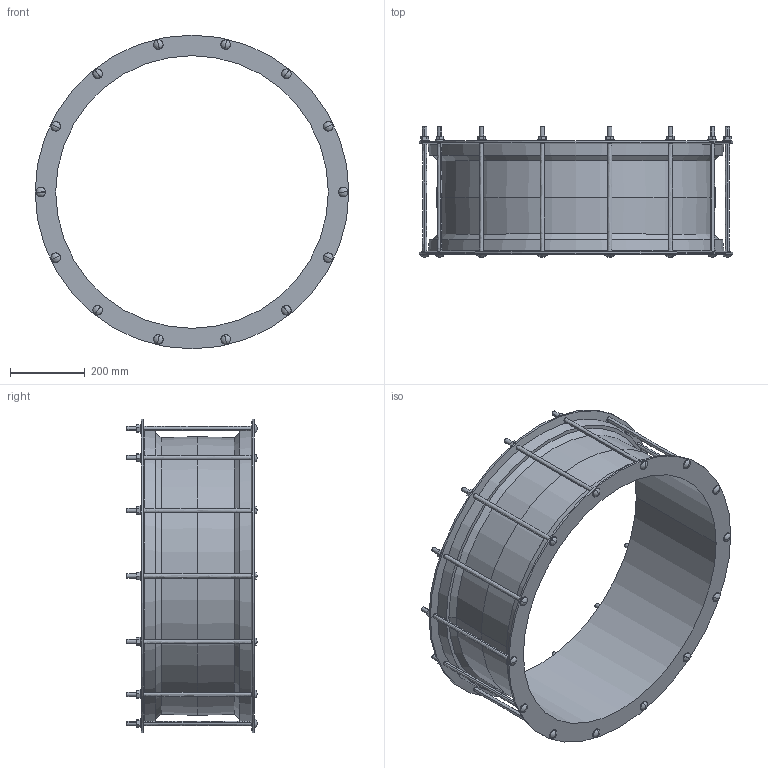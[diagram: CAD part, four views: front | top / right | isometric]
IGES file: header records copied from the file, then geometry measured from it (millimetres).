
Start section:  PTC IGES file: 710_727.igs
Global section: file name: 710_727.igs; native system: Creo Parametric by PTC Inc.; preprocessor: 2016130; author: mfairey; organization: Unknown; date: 20181218.160856; units: millimetre
Bounding box: 839 x 348 x 839 mm (x, y, z)
Surface area: 2036956.9 mm2 (no closed solid volume)
Topology: 0 solids, 0 shells, 292 faces, 1388 edges, 1360 vertices
Faces by surface type: revolution 162, bspline 130
